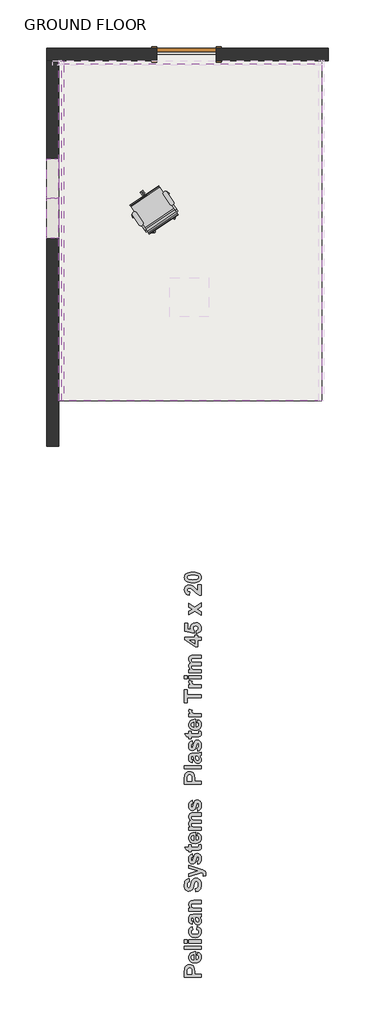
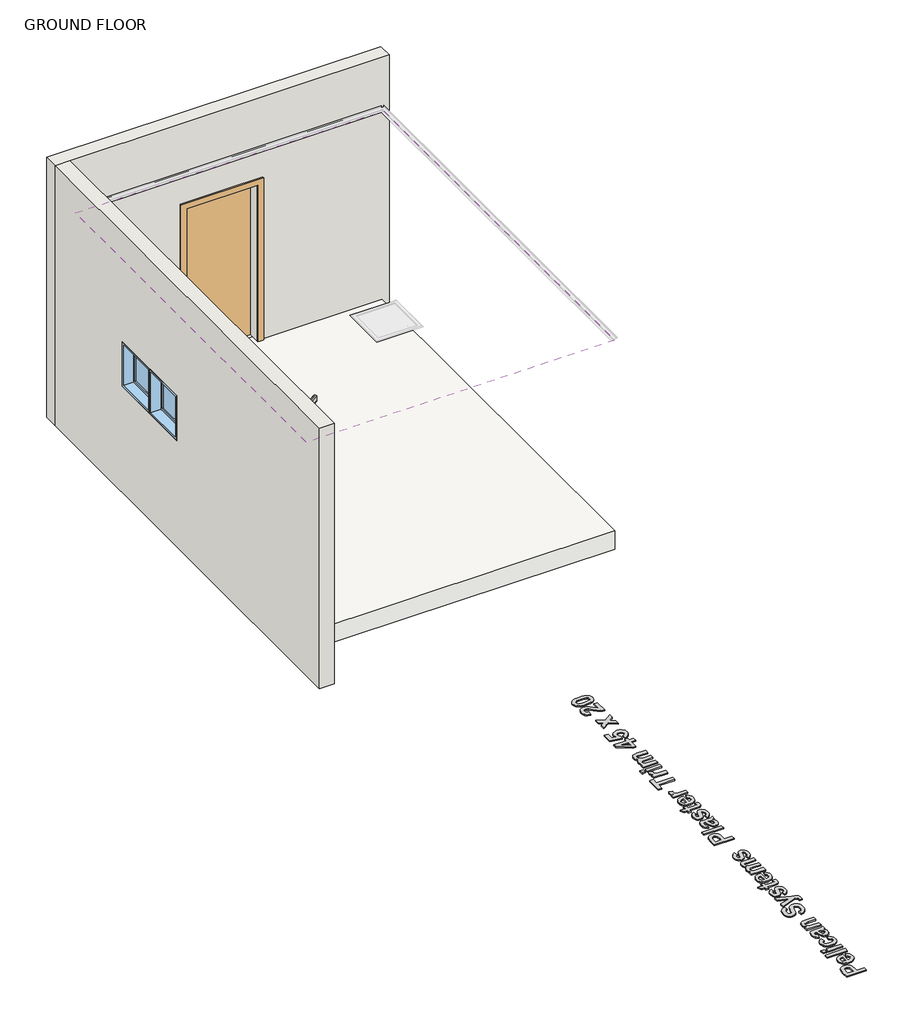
# One storey, part 1 of 2: 2 proxies, 2 walls, 2 windows, 1 covering, 1 door, 1 furniture element, 1 slab.
"""IFC4 building model written with IfcOpenShell, lengths in millimetres."""

from ifc_helpers import new_model, si_unit, frame, origin, origin_with_axes, place, context, project, spatial, polyline, outline, extrude, faceted_brep, transform, mapped, element, save
from components import m_single_flush_0915_x_2134mm_f5238887, chair_task_arms_chair_task_arms_3b363349, m_fixed_0610_x_0610mm_09852ef8

model = new_model("IFC4")

# Units and contexts
model_context = context("Model", 3, world=origin())
ifc_project = project(units=[si_unit("LENGTHUNIT", "METRE", prefix="MILLI")], contexts=[model_context])

# Site, building, storey
site = spatial("IfcSite", under=ifc_project)
building = spatial("IfcBuilding", under=site)
storey = spatial("IfcBuildingStorey", under=building, Name="GROUND FLOOR", Elevation=0.0)

# Proxies
placement = place(None, origin())
element("IfcBuildingElementProxy", 1, Name="600mm Arial", ObjectType="600mm Arial", at=placement, inside=storey, context=model_context, shape_type="SweptSolid", body=[
    extrude(outline(polyline([(130117.584145, 28187.3169008), (129862.519295, 28187.3169008), (129862.519295, 28269.4918116), (129866.3149029, 28330.4113182), (129875.3690092, 28350.4568723), (129891.1445045, 28366.9440441), (129913.0562325, 28377.9750295), (129940.5190371, 28381.6520246), (129962.0037592, 28379.4932727), (129979.7719486, 28373.0170167), (129993.9738481, 28363.2116963), (130004.7597005, 28351.0657511), (130016.8107556, 28324.0220449), (130020.4165831, 28269.9346325), (130020.4165831, 28235.9006818), (130117.584145, 28235.9006818), (130117.584145, 28187.3169008)]), holes=[polyline([(129907.0544275, 28235.9006818), (129975.8814505, 28235.9006818), (129975.8814505, 28266.0757645), (129972.0858426, 28309.630365), (129960.1613079, 28326.8371207), (129951.3760571, 28331.510463), (129941.2781586, 28333.0682437), (129929.2112886, 28330.8778616), (129919.4534133, 28324.3067155), (129912.4631688, 28314.3985974), (129908.6991909, 28302.1972995), (129907.0544275, 28262.5331971), (129907.0544275, 28235.9006818)])]), origin_with_axes(), (0.0, 0.0, 1.0), 15.0),
    extrude(outline(polyline([(130060.9030672, 28527.4033675), (130069.000364, 28575.9871484), (130091.6712136, 28564.1575039), (130108.1900155, 28547.0140082), (130118.2720989, 28524.7306269), (130121.6327934, 28497.4813253), (130119.6519605, 28475.4786608), (130113.7094619, 28456.5362052), (130103.8052976, 28440.6539585), (130089.9394675, 28427.8319206), (130061.2351829, 28414.4524028), (130025.8569544, 28409.9925635), (130004.016394, 28411.4712691), (129984.6746088, 28415.9073858), (129967.8315988, 28423.3009137), (129953.487364, 28433.6518527), (129942.0293727, 28446.2643414), (129933.8450932, 28460.4425184), (129928.9345255, 28476.1863836), (129927.2976696, 28493.495937), (129928.9780168, 28512.7309708), (129934.0190586, 28529.8230675), (129942.4207948, 28544.7722273), (129954.1832254, 28557.5784502), (129969.4170559, 28567.7831001), (129988.2329912, 28574.9275412), (130010.6310315, 28579.0117735), (130036.6111767, 28580.0357969), (130036.6111767, 28458.5763445), (130057.0758292, 28461.691906), (130072.4164111, 28470.0264283), (130082.000321, 28482.3147088), (130085.1949577, 28497.2915449), (130083.7557897, 28507.4922411), (130079.4382857, 28515.9532837), (130071.9261451, 28522.6114125), (130060.9030672, 28527.4033675)]), holes=[polyline([(130008.2706378, 28531.4520159), (129989.0632804, 28528.4946048), (129975.0906989, 28520.6345334), (129966.5743037, 28509.2160797), (129963.7355053, 28495.5835214), (129966.7245465, 28481.1918415), (129975.6916701, 28469.5203472), (129989.8461246, 28461.8658713), (130008.2706378, 28459.3987262), (130008.2706378, 28531.4520159)])]), origin_with_axes(), (0.0, 0.0, 1.0), 15.0),
    extrude(outline(polyline([(130117.584145, 28616.4736326), (129862.519295, 28616.4736326), (129862.519295, 28665.0574135), (130117.584145, 28665.0574135), (130117.584145, 28616.4736326)])), origin_with_axes(), (0.0, 0.0, 1.0), 15.0),
    extrude(outline(polyline([(129907.0544275, 28713.6411945), (129862.519295, 28713.6411945), (129862.519295, 28762.2249754), (129907.0544275, 28762.2249754), (129907.0544275, 28713.6411945)])), origin_with_axes(), (0.0, 0.0, 1.0), 15.0),
    extrude(outline(polyline([(130117.584145, 28713.6411945), (129931.346318, 28713.6411945), (129931.346318, 28762.2249754), (130117.584145, 28762.2249754), (130117.584145, 28713.6411945)])), origin_with_axes(), (0.0, 0.0, 1.0), 15.0),
    extrude(outline(polyline([(129983.9787474, 28964.657396), (129992.0760442, 28916.0736151), (129979.716596, 28912.3491749), (129970.8522701, 28905.7305836), (129965.5146965, 28896.4550668), (129963.7355053, 28884.75985), (129967.0724772, 28869.356008), (129977.083393, 28857.4314732), (129994.9069351, 28849.7928124), (130021.6817857, 28847.2465921), (130051.3666024, 28849.8956101), (130070.8349078, 28857.8426641), (130081.6049452, 28870.2495574), (130085.1949577, 28886.2780932), (130083.1469109, 28898.4161309), (130077.0027707, 28908.1344686), (130065.845265, 28915.3856612), (130048.757122, 28920.1222635), (130056.8544188, 28968.7060445), (130084.9972698, 28958.0704349), (130105.2800494, 28940.7134363), (130117.5446074, 28916.4768984), (130121.6327934, 28885.2026709), (130120.0236138, 28866.4361576), (130115.196075, 28849.6741996), (130107.150177, 28834.9167971), (130095.8859199, 28822.16395), (130081.7789106, 28811.8822017), (130065.2047561, 28804.5380958), (130046.1634566, 28800.1316323), (130024.6550119, 28798.6628111), (130002.9034111, 28800.1217479), (129983.7019843, 28804.4985583), (129967.0507316, 28811.7932422), (129952.9496529, 28822.0057996), (129941.7269102, 28834.7092248), (129933.7106654, 28849.4765117), (129928.9009185, 28866.3076604), (129927.2976696, 28885.2026709), (129930.8006994, 28914.4446667), (129941.3097887, 28937.0127186), (129958.9830879, 28953.5394279), (129983.9787474, 28964.657396)])), origin_with_axes(), (0.0, 0.0, 1.0), 15.0),
    extrude(outline(polyline([(129988.0273958, 29045.6303643), (129979.9300989, 29001.0952318), (129956.5871104, 29010.7503093), (129940.2027364, 29025.5452726), (129930.5239363, 29047.1090699), (129927.2976696, 29077.0706496), (129929.2508261, 29104.1618009), (129935.1102958, 29123.3138057), (129943.9667142, 29136.2505026), (129954.910717, 29144.6957301), (129971.9197848, 29149.3453498), (129998.9713985, 29150.895223), (130056.4115979, 29150.895223), (130092.5963931, 29153.4572583), (130117.584145, 29163.0411683), (130117.584145, 29114.4573873), (130102.1486729, 29109.9026578), (130096.0124401, 29108.1946343), (130115.21189, 29082.1947203), (130120.0275675, 29067.8821155), (130121.6327934, 29052.6522389), (130117.7343878, 29027.8779899), (130106.039171, 29008.9711181), (130088.3975018, 28996.9912307), (130066.6597392, 28992.9979349), (130051.7619782, 28994.7771261), (130038.5722408, 29000.1146997), (130027.6756832, 29008.662725), (130019.6574615, 29020.0732712), (130008.2073777, 29057.0804481), (129996.1246926, 29102.3114421), (129991.0006219, 29102.3114421), (129978.3802257, 29100.8011064), (129969.9982583, 29096.2700995), (129965.3011935, 29087.5639239), (129963.7355053, 29073.5280823), (129965.0797831, 29063.4539063), (129969.1126165, 29055.8785056), (129988.0273958, 29045.6303643)]), holes=[polyline([(130032.5625283, 29102.3114421), (130039.2997323, 29074.9198052), (130046.9858383, 29050.3748742), (130053.8970076, 29043.7800055), (130062.4845705, 29041.5817159), (130071.0958559, 29043.345092), (130078.4577537, 29048.6352205), (130083.5106567, 29056.6455347), (130085.1949577, 29066.5694678), (130083.2338936, 29078.4781875), (130077.3507014, 29089.785936), (130062.8008711, 29100.5401584), (130041.3556866, 29102.3114421), (130032.5625283, 29102.3114421)])]), origin_with_axes(), (0.0, 0.0, 1.0), 15.0),
    extrude(outline(polyline([(130117.584145, 29365.4735889), (130117.584145, 29316.8898079), (130021.8715661, 29316.8898079), (129982.5237643, 29313.8533216), (129968.6697955, 29303.921481), (129963.7355053, 29287.4105867), (129965.4988815, 29275.6521097), (129970.78901, 29265.1746505), (129978.997012, 29256.8875733), (129989.5140089, 29251.7002425), (130032.6257884, 29248.0627849), (130117.584145, 29248.0627849), (130117.584145, 29199.479004), (129931.346318, 29199.479004), (129931.346318, 29248.0627849), (129958.1686137, 29248.0627849), (129944.6625757, 29260.3550192), (129935.0154056, 29274.1417741), (129929.2271036, 29289.4230496), (129927.2976696, 29306.1988457), (129933.1808618, 29334.4128643), (129948.173513, 29353.7704646), (129968.8279459, 29362.9115536), (130001.9446247, 29365.4735889), (130117.584145, 29365.4735889)])), origin_with_axes(), (0.0, 0.0, 1.0), 15.0),
    extrude(outline(polyline([(130032.5625283, 29499.0789865), (130028.5138799, 29547.6627674), (130050.243735, 29554.7479022), (130065.3312764, 29566.6408069), (130074.1560647, 29583.4205567), (130077.0976608, 29605.1662269), (130074.4960879, 29627.7342788), (130066.6913692, 29643.9446875), (130055.4073433, 29653.7183778), (130042.3678487, 29656.9762746), (130027.1537871, 29651.5675333), (130016.2414144, 29632.621124), (130005.4239319, 29590.4898764), (129994.2427037, 29554.5264917), (129980.5627003, 29531.1518731), (129957.2671569, 29513.1701808), (129929.3852539, 29507.1762833), (129910.5969949, 29509.928099), (129893.0739385, 29518.1835462), (129878.1919925, 29531.6263241), (129867.327065, 29549.9401322), (129860.6847512, 29572.8244847), (129858.4706466, 29599.9788962), (129863.990093, 29641.9440859), (129870.8894011, 29658.4846333), (129880.5484324, 29672.0638159), (129892.508551, 29682.725125), (129906.311121, 29690.5120518), (129921.9561422, 29695.4245964), (129939.4436148, 29697.4627587), (129939.4436148, 29648.8789778), (129922.7508476, 29643.5097741), (129911.5142668, 29634.2342573), (129905.132901, 29620.1984157), (129903.0057791, 29600.5482373), (129905.2673288, 29579.8621744), (129912.0519779, 29564.2369219), (129918.852442, 29557.8792787), (129927.6139702, 29555.7600643), (129935.8852324, 29557.6894983), (129942.8596619, 29563.4778003), (129951.0281264, 29580.2812727), (129959.4654464, 29611.0810492), (129968.2427897, 29643.952595), (129977.4313238, 29666.9713754), (129988.5571994, 29683.1027089), (130003.1465672, 29695.3119142), (130021.3813001, 29702.9980202), (130043.4432709, 29705.5600555), (130064.5088947, 29702.5314767), (130084.1827956, 29693.4457404), (130100.7253199, 29678.816835), (130112.3968142, 29659.1587491), (130119.3237986, 29634.2579799), (130121.6327934, 29603.9010243), (130120.2114173, 29581.1985446), (130115.9472891, 29561.2953258), (130108.8404087, 29544.1913677), (130098.8907761, 29529.8866705), (130086.2170042, 29518.2823902), (130070.9377055, 29509.2796827), (130053.0528803, 29502.8785481), (130032.5625283, 29499.0789865)])), origin_with_axes(), (0.0, 0.0, 1.0), 15.0),
    extrude(outline(polyline([(129931.346318, 29725.8032976), (129931.346318, 29774.3870786), (130063.1804319, 29816.8978869), (129931.346318, 29859.4086952), (129931.346318, 29907.9924762), (130109.8031488, 29844.9853852), (130142.9514577, 29833.2822609), (130166.5474867, 29821.7372869), (130179.7688542, 29809.1168907), (130187.6447405, 29791.5622042), (130190.4598164, 29768.0610654), (130187.6763706, 29741.9978913), (130151.6813558, 29737.9492428), (130154.0219807, 29757.2435829), (130151.4520378, 29771.010569), (130143.7422093, 29780.6814616), (130117.584145, 29792.3529559), (129931.346318, 29725.8032976)])), origin_with_axes(), (0.0, 0.0, 1.0), 15.0),
    extrude(outline(polyline([(130064.9517156, 29916.089773), (130056.8544188, 29964.6735539), (130069.0952542, 29969.2994511), (130077.9833027, 29977.1041698), (130083.3920439, 29988.3565656), (130085.1949577, 30003.3254943), (130083.4711191, 30019.567533), (130078.2996033, 30031.2232122), (130072.6694516, 30035.9677221), (130065.3945365, 30037.5492254), (130056.2850776, 30034.1964384), (130049.8958043, 30018.3181454), (130037.4651885, 29971.3949429), (130026.1099949, 29945.5057341), (130008.1283025, 29929.5167359), (129984.295048, 29924.1870698), (129962.1065569, 29928.7576143), (129943.7453038, 29942.4692478), (129931.4095781, 29965.7964213), (129927.2976696, 29999.2135857), (129930.6188265, 30031.0808769), (129940.5822972, 30053.5540386), (129957.0615614, 30068.5625048), (129979.9300989, 30078.0357095), (129988.0273958, 30029.4519285), (129977.6369192, 30025.8777311), (129969.9982583, 30020.0894291), (129965.3011935, 30011.7390917), (129963.7355053, 30000.4787883), (129965.0639681, 29986.6406346), (129969.0493563, 29977.3888404), (129978.9179368, 29972.7708508), (129987.7110951, 29977.3888404), (130001.3120234, 30020.3740997), (130011.1331588, 30051.6008821), (130023.0102485, 30071.7096963), (130038.682946, 30082.5271788), (130059.5113443, 30086.1330063), (130083.210171, 30080.906138), (130103.3189853, 30065.2255329), (130111.3312764, 30053.5164779), (130117.0543414, 30039.2967865), (130121.6327934, 30003.3254943), (130117.8213705, 29970.0111275), (130106.3871017, 29944.4619419), (130088.4054093, 29926.5356022), (130064.9517156, 29916.089773)])), origin_with_axes(), (0.0, 0.0, 1.0), 15.0),
    extrude(outline(polyline([(129931.346318, 30219.7384039), (129967.7841537, 30219.7384039), (129967.7841537, 30183.3005682), (130047.6816997, 30183.3005682), (130075.9273484, 30184.4076205), (130082.5696622, 30189.436801), (130085.1949577, 30198.9890808), (130080.5137079, 30221.7627281), (130115.0537397, 30223.7870523), (130119.98803, 30205.0462384), (130121.6327934, 30183.9964297), (130117.0780639, 30159.4514987), (130105.3116795, 30143.4150553), (130085.7642989, 30136.2982906), (130050.4018854, 30134.7167873), (129967.7841537, 30134.7167873), (129967.7841537, 30110.4248968), (129931.346318, 30110.4248968), (129931.346318, 30134.7167873), (129894.9084823, 30134.7167873), (129866.5679434, 30183.3005682), (129931.346318, 30183.3005682), (129931.346318, 30219.7384039)])), origin_with_axes(), (0.0, 0.0, 1.0), 15.0),
    extrude(outline(polyline([(130060.9030672, 30353.3438015), (130069.000364, 30401.9275825), (130091.6712136, 30390.0979379), (130108.1900155, 30372.9544423), (130118.2720989, 30350.671061), (130121.6327934, 30323.4217594), (130119.6519605, 30301.4190949), (130113.7094619, 30282.4766393), (130103.8052976, 30266.5943925), (130089.9394675, 30253.7723546), (130061.2351829, 30240.3928368), (130025.8569544, 30235.9329976), (130004.016394, 30237.4117032), (129984.6746088, 30241.8478199), (129967.8315988, 30249.2413477), (129953.487364, 30259.5922867), (129942.0293727, 30272.2047754), (129933.8450932, 30286.3829524), (129928.9345255, 30302.1268176), (129927.2976696, 30319.4363711), (129928.9780168, 30338.6714048), (129934.0190586, 30355.7635016), (129942.4207948, 30370.7126614), (129954.1832254, 30383.5188842), (129969.4170559, 30393.7235342), (129988.2329912, 30400.8679753), (130010.6310315, 30404.9522075), (130036.6111767, 30405.9762309), (130036.6111767, 30284.5167785), (130057.0758292, 30287.63234), (130072.4164111, 30295.9668623), (130082.000321, 30308.2551429), (130085.1949577, 30323.231979), (130083.7557897, 30333.4326752), (130079.4382857, 30341.8937178), (130071.9261451, 30348.5518466), (130060.9030672, 30353.3438015)]), holes=[polyline([(130008.2706378, 30357.39245), (129989.0632804, 30354.4350388), (129975.0906989, 30346.5749675), (129966.5743037, 30335.1565138), (129963.7355053, 30321.5239554), (129966.7245465, 30307.1322755), (129975.6916701, 30295.4607813), (129989.8461246, 30287.8063054), (130008.2706378, 30285.3391602), (130008.2706378, 30357.39245)])]), origin_with_axes(), (0.0, 0.0, 1.0), 15.0),
    extrude(outline(polyline([(129931.346318, 30438.3654182), (129931.346318, 30486.9491992), (129956.2708098, 30486.9491992), (129943.5950609, 30498.9093178), (129934.5409546, 30511.9527661), (129929.1084908, 30526.0795442), (129927.2976696, 30541.2896521), (129929.0768608, 30556.9386271), (129934.4144344, 30570.3576825), (129943.3578355, 30581.5626332), (129955.9545091, 30590.5692945), (129943.3578355, 30603.0078178), (129934.4144344, 30616.4110582), (129929.0768608, 30630.7632005), (129927.2976696, 30646.0484297), (129929.3773464, 30664.5045731), (129935.6163769, 30679.8926001), (129945.8882407, 30692.0069152), (129960.0664177, 30700.6419232), (129975.644225, 30704.3426409), (129998.5918377, 30705.5762134), (130117.584145, 30705.5762134), (130117.584145, 30656.9924325), (130010.3582222, 30656.9924325), (129987.4106095, 30655.7588599), (129974.3632074, 30652.0581422), (129966.3924308, 30643.6761748), (129963.7355053, 30631.6883799), (129965.3249161, 30621.9858572), (129970.0931485, 30612.8684908), (129977.9294973, 30605.277275), (129988.7232572, 30600.1532044), (130027.5017178, 30596.2627063), (130117.584145, 30596.2627063), (130117.584145, 30547.6789253), (130014.7864314, 30547.6789253), (129979.455648, 30545.1485201), (129967.6260034, 30537.3358939), (129963.7355053, 30522.9442139), (129965.277471, 30512.5537374), (129969.9033681, 30503.2703131), (129977.4471388, 30495.7739875), (129987.7427252, 30490.744807), (130026.4262956, 30486.9491992), (130117.584145, 30486.9491992), (130117.584145, 30438.3654182), (129931.346318, 30438.3654182)])), origin_with_axes(), (0.0, 0.0, 1.0), 15.0),
    extrude(outline(polyline([(130064.9517156, 30733.9167523), (130056.8544188, 30782.5005333), (130069.0952542, 30787.1264304), (130077.9833027, 30794.9311491), (130083.3920439, 30806.183545), (130085.1949577, 30821.1524736), (130083.4711191, 30837.3945123), (130078.2996033, 30849.0501916), (130072.6694516, 30853.7947014), (130065.3945365, 30855.3762047), (130056.2850776, 30852.0234177), (130049.8958043, 30836.1451247), (130037.4651885, 30789.2219222), (130026.1099949, 30763.3327134), (130008.1283025, 30747.3437152), (129984.295048, 30742.0140491), (129962.1065569, 30746.5845936), (129943.7453038, 30760.2962271), (129931.4095781, 30783.6234006), (129927.2976696, 30817.040565), (129930.6188265, 30848.9078563), (129940.5822972, 30871.381018), (129957.0615614, 30886.3894841), (129979.9300989, 30895.8626888), (129988.0273958, 30847.2789079), (129977.6369192, 30843.7047104), (129969.9982583, 30837.9164084), (129965.3011935, 30829.5660711), (129963.7355053, 30818.3057677), (129965.0639681, 30804.4676139), (129969.0493563, 30795.2158197), (129978.9179368, 30790.5978301), (129987.7110951, 30795.2158197), (130001.3120234, 30838.201079), (130011.1331588, 30869.4278614), (130023.0102485, 30889.5366757), (130038.682946, 30900.3541582), (130059.5113443, 30903.9599856), (130083.210171, 30898.7331173), (130103.3189853, 30883.0525122), (130111.3312764, 30871.3434572), (130117.0543414, 30857.1237658), (130121.6327934, 30821.1524736), (130117.8213705, 30787.8381069), (130106.3871017, 30762.2889213), (130088.4054093, 30744.3625815), (130064.9517156, 30733.9167523)])), origin_with_axes(), (0.0, 0.0, 1.0), 15.0),
    extrude(outline(polyline([(130117.584145, 31142.830242), (129862.519295, 31142.830242), (129862.519295, 31225.0051527), (129866.3149029, 31285.9246593), (129875.3690092, 31305.9702135), (129891.1445045, 31322.4573852), (129913.0562325, 31333.4883706), (129940.5190371, 31337.1653658), (129962.0037592, 31335.0066138), (129979.7719486, 31328.5303578), (129993.9738481, 31318.7250375), (130004.7597005, 31306.5790922), (130016.8107556, 31279.535386), (130020.4165831, 31225.4479737), (130020.4165831, 31191.4140229), (130117.584145, 31191.4140229), (130117.584145, 31142.830242)]), holes=[polyline([(129907.0544275, 31191.4140229), (129975.8814505, 31191.4140229), (129975.8814505, 31221.5891056), (129972.0858426, 31265.1437061), (129960.1613079, 31282.3504619), (129951.3760571, 31287.0238041), (129941.2781586, 31288.5815848), (129929.2112886, 31286.3912028), (129919.4534133, 31279.8200566), (129912.4631688, 31269.9119385), (129908.6991909, 31257.7106407), (129907.0544275, 31218.0465383), (129907.0544275, 31191.4140229)])]), origin_with_axes(), (0.0, 0.0, 1.0), 15.0),
    extrude(outline(polyline([(130117.584145, 31377.6518499), (129862.519295, 31377.6518499), (129862.519295, 31426.2356309), (130117.584145, 31426.2356309), (130117.584145, 31377.6518499)])), origin_with_axes(), (0.0, 0.0, 1.0), 15.0),
    extrude(outline(polyline([(129988.0273958, 31515.3058959), (129979.9300989, 31470.7707634), (129956.5871104, 31480.425841), (129940.2027364, 31495.2208042), (129930.5239363, 31516.7846015), (129927.2976696, 31546.7461813), (129929.2508261, 31573.8373326), (129935.1102958, 31592.9893374), (129943.9667142, 31605.9260342), (129954.910717, 31614.3712618), (129971.9197848, 31619.0208814), (129998.9713985, 31620.5707547), (130056.4115979, 31620.5707547), (130092.5963931, 31623.13279), (130117.584145, 31632.7166999), (130117.584145, 31584.132919), (130102.1486729, 31579.5781895), (130096.0124401, 31577.8701659), (130115.21189, 31551.8702519), (130120.0275675, 31537.5576472), (130121.6327934, 31522.3277705), (130117.7343878, 31497.5535216), (130106.039171, 31478.6466498), (130088.3975018, 31466.6667624), (130066.6597392, 31462.6734666), (130051.7619782, 31464.4526578), (130038.5722408, 31469.7902314), (130027.6756832, 31478.3382566), (130019.6574615, 31489.7488028), (130008.2073777, 31526.7559797), (129996.1246926, 31571.9869737), (129991.0006219, 31571.9869737), (129978.3802257, 31570.4766381), (129969.9982583, 31565.9456312), (129965.3011935, 31557.2394556), (129963.7355053, 31543.2036139), (129965.0797831, 31533.129438), (129969.1126165, 31525.5540372), (129988.0273958, 31515.3058959)]), holes=[polyline([(130032.5625283, 31571.9869737), (130039.2997323, 31544.5953368), (130046.9858383, 31520.0504058), (130053.8970076, 31513.4555371), (130062.4845705, 31511.2572475), (130071.0958559, 31513.0206237), (130078.4577537, 31518.3107522), (130083.5106567, 31526.3210663), (130085.1949577, 31536.2449994), (130083.2338936, 31548.1537192), (130077.3507014, 31559.4614677), (130062.8008711, 31570.21569), (130041.3556866, 31571.9869737), (130032.5625283, 31571.9869737)])]), origin_with_axes(), (0.0, 0.0, 1.0), 15.0),
    extrude(outline(polyline([(130064.9517156, 31648.9112936), (130056.8544188, 31697.4950745), (130069.0952542, 31702.1209716), (130077.9833027, 31709.9256903), (130083.3920439, 31721.1780862), (130085.1949577, 31736.1470148), (130083.4711191, 31752.3890536), (130078.2996033, 31764.0447328), (130072.6694516, 31768.7892426), (130065.3945365, 31770.3707459), (130056.2850776, 31767.017959), (130049.8958043, 31751.139666), (130037.4651885, 31704.2164635), (130026.1099949, 31678.3272547), (130008.1283025, 31662.3382565), (129984.295048, 31657.0085904), (129962.1065569, 31661.5791349), (129943.7453038, 31675.2907684), (129931.4095781, 31698.6179418), (129927.2976696, 31732.0351063), (129930.6188265, 31763.9023975), (129940.5822972, 31786.3755592), (129957.0615614, 31801.3840254), (129979.9300989, 31810.8572301), (129988.0273958, 31762.2734491), (129977.6369192, 31758.6992517), (129969.9982583, 31752.9109496), (129965.3011935, 31744.5606123), (129963.7355053, 31733.3003089), (129965.0639681, 31719.4621551), (129969.0493563, 31710.2103609), (129978.9179368, 31705.5923713), (129987.7110951, 31710.2103609), (130001.3120234, 31753.1956202), (130011.1331588, 31784.4224026), (130023.0102485, 31804.5312169), (130038.682946, 31815.3486994), (130059.5113443, 31818.9545269), (130083.210171, 31813.7276585), (130103.3189853, 31798.0470534), (130111.3312764, 31786.3379985), (130117.0543414, 31772.1183071), (130121.6327934, 31736.1470148), (130117.8213705, 31702.8326481), (130106.3871017, 31677.2834625), (130088.4054093, 31659.3571228), (130064.9517156, 31648.9112936)])), origin_with_axes(), (0.0, 0.0, 1.0), 15.0),
    extrude(outline(polyline([(129931.346318, 31952.5599245), (129967.7841537, 31952.5599245), (129967.7841537, 31916.1220888), (130047.6816997, 31916.1220888), (130075.9273484, 31917.2291411), (130082.5696622, 31922.2583215), (130085.1949577, 31931.8106014), (130080.5137079, 31954.5842487), (130115.0537397, 31956.6085729), (130119.98803, 31937.867759), (130121.6327934, 31916.8179502), (130117.0780639, 31892.2730192), (130105.3116795, 31876.2365759), (130085.7642989, 31869.1198111), (130050.4018854, 31867.5383078), (129967.7841537, 31867.5383078), (129967.7841537, 31843.2464174), (129931.346318, 31843.2464174), (129931.346318, 31867.5383078), (129894.9084823, 31867.5383078), (129866.5679434, 31916.1220888), (129931.346318, 31916.1220888), (129931.346318, 31952.5599245)])), origin_with_axes(), (0.0, 0.0, 1.0), 15.0),
    extrude(outline(polyline([(130060.9030672, 32086.1653221), (130069.000364, 32134.7491031), (130091.6712136, 32122.9194585), (130108.1900155, 32105.7759629), (130118.2720989, 32083.4925816), (130121.6327934, 32056.2432799), (130119.6519605, 32034.2406155), (130113.7094619, 32015.2981599), (130103.8052976, 31999.4159131), (130089.9394675, 31986.5938752), (130061.2351829, 31973.2143574), (130025.8569544, 31968.7545181), (130004.016394, 31970.2332237), (129984.6746088, 31974.6693404), (129967.8315988, 31982.0628683), (129953.487364, 31992.4138073), (129942.0293727, 32005.026296), (129933.8450932, 32019.204473), (129928.9345255, 32034.9483382), (129927.2976696, 32052.2578916), (129928.9780168, 32071.4929254), (129934.0190586, 32088.5850221), (129942.4207948, 32103.5341819), (129954.1832254, 32116.3404048), (129969.4170559, 32126.5450548), (129988.2329912, 32133.6894959), (130010.6310315, 32137.7737281), (130036.6111767, 32138.7977515), (130036.6111767, 32017.3382991), (130057.0758292, 32020.4538606), (130072.4164111, 32028.7883829), (130082.000321, 32041.0766634), (130085.1949577, 32056.0534995), (130083.7557897, 32066.2541957), (130079.4382857, 32074.7152383), (130071.9261451, 32081.3733671), (130060.9030672, 32086.1653221)]), holes=[polyline([(130008.2706378, 32090.2139705), (129989.0632804, 32087.2565594), (129975.0906989, 32079.396488), (129966.5743037, 32067.9780343), (129963.7355053, 32054.345476), (129966.7245465, 32039.9537961), (129975.6916701, 32028.2823018), (129989.8461246, 32020.6278259), (130008.2706378, 32018.1606808), (130008.2706378, 32090.2139705)])]), origin_with_axes(), (0.0, 0.0, 1.0), 15.0),
    extrude(outline(polyline([(130117.584145, 32223.8193681), (130117.584145, 32175.2355872), (129931.346318, 32175.2355872), (129931.346318, 32223.8193681), (129957.2829719, 32223.8193681), (129933.0859716, 32243.2402285), (129927.2976696, 32262.8508692), (129929.8597049, 32278.0174857), (129937.5458109, 32292.6463911), (129983.788967, 32278.4761217), (129977.8583296, 32266.7729974), (129975.8814505, 32255.9555149), (129981.416712, 32238.8436493), (129989.1739857, 32232.5967114), (130001.3752835, 32227.8363865), (130061.8519692, 32223.8193681), (130117.584145, 32223.8193681)])), origin_with_axes(), (0.0, 0.0, 1.0), 15.0),
    extrude(outline(polyline([(130117.584145, 32466.7382729), (129907.0544275, 32466.7382729), (129907.0544275, 32393.8626015), (129862.519295, 32393.8626015), (129862.519295, 32588.1977253), (129907.0544275, 32588.1977253), (129907.0544275, 32515.3220538), (130117.584145, 32515.3220538), (130117.584145, 32466.7382729)])), origin_with_axes(), (0.0, 0.0, 1.0), 15.0),
    extrude(outline(polyline([(130117.584145, 32669.1706935), (130117.584145, 32620.5869126), (129931.346318, 32620.5869126), (129931.346318, 32669.1706935), (129957.2829719, 32669.1706935), (129933.0859716, 32688.5915539), (129927.2976696, 32708.2021946), (129929.8597049, 32723.3688111), (129937.5458109, 32737.9977165), (129983.788967, 32723.8274471), (129977.8583296, 32712.1243228), (129975.8814505, 32701.3068403), (129981.416712, 32684.1949747), (129989.1739857, 32677.9480367), (130001.3752835, 32673.1877119), (130061.8519692, 32669.1706935), (130117.584145, 32669.1706935)])), origin_with_axes(), (0.0, 0.0, 1.0), 15.0),
    extrude(outline(polyline([(129907.0544275, 32758.2409586), (129862.519295, 32758.2409586), (129862.519295, 32806.8247395), (129907.0544275, 32806.8247395), (129907.0544275, 32758.2409586)])), origin_with_axes(), (0.0, 0.0, 1.0), 15.0),
    extrude(outline(polyline([(130117.584145, 32758.2409586), (129931.346318, 32758.2409586), (129931.346318, 32806.8247395), (130117.584145, 32806.8247395), (130117.584145, 32758.2409586)])), origin_with_axes(), (0.0, 0.0, 1.0), 15.0),
    extrude(outline(polyline([(129931.346318, 32851.3598721), (129931.346318, 32899.943653), (129956.2708098, 32899.943653), (129943.5950609, 32911.9037716), (129934.5409546, 32924.94722), (129929.1084908, 32939.0739981), (129927.2976696, 32954.2841059), (129929.0768608, 32969.933081), (129934.4144344, 32983.3521363), (129943.3578355, 32994.5570871), (129955.9545091, 33003.5637483), (129943.3578355, 33016.0022717), (129934.4144344, 33029.405512), (129929.0768608, 33043.7576543), (129927.2976696, 33059.0428836), (129929.3773464, 33077.499027), (129935.6163769, 33092.8870539), (129945.8882407, 33105.0013691), (129960.0664177, 33113.636377), (129975.644225, 33117.3370947), (129998.5918377, 33118.5706673), (130117.584145, 33118.5706673), (130117.584145, 33069.9868863), (130010.3582222, 33069.9868863), (129987.4106095, 33068.7533138), (129974.3632074, 33065.0525961), (129966.3924308, 33056.6706287), (129963.7355053, 33044.6828338), (129965.3249161, 33034.9803111), (129970.0931485, 33025.8629447), (129977.9294973, 33018.2717289), (129988.7232572, 33013.1476582), (130027.5017178, 33009.2571602), (130117.584145, 33009.2571602), (130117.584145, 32960.6733792), (130014.7864314, 32960.6733792), (129979.455648, 32958.142974), (129967.6260034, 32950.3303477), (129963.7355053, 32935.9386678), (129965.277471, 32925.5481912), (129969.9033681, 32916.2647669), (129977.4471388, 32908.7684414), (129987.7427252, 32903.7392609), (130026.4262956, 32899.943653), (130117.584145, 32899.943653), (130117.584145, 32851.3598721), (129931.346318, 32851.3598721)])), origin_with_axes(), (0.0, 0.0, 1.0), 15.0),
    extrude(outline(polyline([(130117.584145, 33345.2949784), (130064.9517156, 33345.2949784), (130064.9517156, 33248.1274165), (130024.6550119, 33248.1274165), (129866.5679434, 33351.7475118), (129866.5679434, 33393.8787594), (130024.4652315, 33393.8787594), (130024.4652315, 33426.2679467), (130064.9517156, 33426.2679467), (130064.9517156, 33393.8787594), (130117.584145, 33393.8787594), (130117.584145, 33345.2949784)]), holes=[polyline([(130024.4652315, 33345.2949784), (129941.5944593, 33345.2949784), (130024.4652315, 33291.0177856), (130024.4652315, 33345.2949784)])]), origin_with_axes(), (0.0, 0.0, 1.0), 15.0),
    extrude(outline(polyline([(130045.7838958, 33450.5598371), (130040.6598251, 33495.0949697), (130055.7315515, 33499.2385083), (130067.2923405, 33507.4939554), (130074.6463308, 33518.5961085), (130077.0976608, 33531.2797649), (130074.4960879, 33545.4737568), (130066.6913692, 33557.3113089), (130053.6518746, 33565.3058081), (130035.3459741, 33567.9706411), (130018.1866634, 33565.4955884), (130005.930013, 33558.0704305), (129998.5760227, 33546.6756993), (129996.1246926, 33532.291927), (130001.1855031, 33513.4720378), (130016.3679347, 33496.7397331), (130010.1051816, 33454.6084855), (129866.5679434, 33482.9490244), (129866.5679434, 33604.4084768), (129915.1517243, 33604.4084768), (129915.1517243, 33522.2335661), (129961.5214007, 33512.4282457), (129954.0725202, 33527.9111629), (129951.5895601, 33543.7420107), (129957.3383245, 33571.8611392), (129974.5846178, 33595.362278), (130001.0036302, 33611.256386), (130034.2705519, 33616.554422), (130063.196247, 33612.1420279), (130088.8640453, 33598.9048454), (130103.2003726, 33585.6874317), (130113.4406064, 33570.1373006), (130119.5847466, 33552.2544522), (130121.6327934, 33532.0388864), (130116.4929077, 33501.0335145), (130101.0732507, 33476.3383407), (130076.9711406, 33459.1236774), (130045.7838958, 33450.5598371)])), origin_with_axes(), (0.0, 0.0, 1.0), 15.0),
    extrude(outline(polyline([(130117.584145, 33727.8922534), (130021.6817857, 33793.6827901), (129931.346318, 33735.9895502), (129931.346318, 33793.7460502), (129982.5237643, 33821.8335486), (129931.346318, 33852.3249319), (129931.346318, 33910.0814319), (130019.5309412, 33850.6801685), (130117.584145, 33918.1787288), (130117.584145, 33860.4222288), (130059.8909051, 33821.8335486), (130117.584145, 33785.6487534), (130117.584145, 33727.8922534)])), origin_with_axes(), (0.0, 0.0, 1.0), 15.0),
    extrude(outline(polyline([(130069.000364, 34195.511145), (130117.584145, 34195.511145), (130117.584145, 34033.5652085), (130093.0787516, 34038.7367243), (130069.9176359, 34049.0639407), (130043.735849, 34068.2475756), (130010.1684418, 34099.9883465), (129969.4289171, 34137.5648646), (129954.7209366, 34144.5867392), (129940.2027364, 34146.9273641), (129926.0561895, 34144.9583925), (129915.6261753, 34139.0514777), (129909.1973645, 34129.6810707), (129907.0544275, 34117.3216226), (129909.1657344, 34105.0491571), (129915.4996551, 34095.5601373), (129926.7204209, 34089.1708641), (129943.4922632, 34086.1976379), (129939.064054, 34037.6138569), (129903.9151435, 34046.2172348), (129890.6759841, 34053.8400807), (129880.327022, 34063.6770311), (129866.9712267, 34088.3010373), (129862.519295, 34118.3970448), (129867.5089379, 34150.5331916), (129882.4778665, 34174.9516023), (129904.8640455, 34190.3712594), (129932.1054396, 34195.511145), (129964.2415863, 34189.8809933), (129996.1879527, 34172.0416363), (130028.071059, 34141.8349235), (130055.7157364, 34114.0953559), (130069.000364, 34104.9858969), (130069.000364, 34195.511145)])), origin_with_axes(), (0.0, 0.0, 1.0), 15.0),
    extrude(outline(polyline([(129862.519295, 34308.8733006), (129864.1640584, 34326.0049349), (129869.0983487, 34341.1517827), (129877.3221657, 34354.3138438), (129888.8355097, 34365.4911182), (129906.9634911, 34376.1464966), (129930.2234507, 34383.7574812), (129958.6153884, 34388.3240719), (129992.1393043, 34389.8462688), (130025.6315902, 34388.3161644), (130054.055158, 34383.7258511), (130077.4100077, 34376.075329), (130095.6961395, 34365.364598), (130107.0434256, 34354.2426761), (130115.1486299, 34341.1201526), (130120.0117525, 34325.9970274), (130121.6327934, 34308.8733006), (130119.8536022, 34291.565724), (130114.5160286, 34276.0175698), (130105.6200726, 34262.228838), (130093.1657342, 34250.1995287), (130076.1448051, 34240.4436303), (130053.5490769, 34233.4751314), (130025.3785496, 34229.2940321), (129991.6332233, 34227.9003323), (129958.3069953, 34229.4304368), (129930.0020402, 34234.02075), (129906.7183581, 34241.6712722), (129888.4559489, 34252.3820032), (129877.1086628, 34263.5039251), (129869.0034585, 34276.6264486), (129864.1403359, 34291.7495738), (129862.519295, 34308.8733006)]), holes=[polyline([(129907.0544275, 34308.8733006), (129912.3999086, 34292.6787069), (129919.8725117, 34286.3526938), (129931.5993585, 34281.6714441), (129955.7489137, 34277.780946), (129992.1393043, 34276.4841133), (130028.0473364, 34277.6386107), (130050.6232958, 34281.1021029), (130063.8762934, 34286.3289712), (130071.8154399, 34292.7735971), (130077.0976608, 34308.8733006), (130071.7521797, 34325.0678942), (130064.2795767, 34331.3939074), (130052.5527298, 34336.0751571), (130028.5296949, 34339.9656552), (129992.1393043, 34341.2624879), (129956.2708098, 34340.1079905), (129933.6869429, 34336.6444983), (129920.3944077, 34331.4176299), (129912.3999086, 34324.973004), (129907.0544275, 34308.8733006)])]), origin_with_axes(), (0.0, 0.0, 1.0), 15.0),
])
element("IfcBuildingElementProxy", 2, Name="TR04 : Trims Pelican Systems Plaster Trim 45 x 20", ObjectType="TR04 : Trims Pelican Systems Plaster Trim 45 x 20", at=placement, inside=storey, context=model_context, shape_type="Brep", body=[
    faceted_brep([(127942.7345529, 42216.9193804, 2641.0), (127943.7345529, 42216.9193804, 2641.0), (127943.7345529, 42216.9193804, 2621.0), (127988.7345529, 42216.9193804, 2621.0), (127988.7345529, 42216.9193804, 2620.0), (127988.7345529, 42216.9193804, 2612.0), (128012.7345529, 42216.9193804, 2612.0), (128012.7345529, 42216.9193804, 2611.0), (127988.7345529, 42216.9193804, 2611.0), (127988.7345529, 42216.9193804, 2600.0), (127987.7345529, 42216.9193804, 2600.0), (127987.7345529, 42216.9193804, 2620.0), (127942.7345529, 42216.9193804, 2620.0), (127942.7345529, 42216.9193804, 2621.0), (127942.7345529, 37012.9193804, 2641.0), (127942.7345529, 37012.9193804, 2620.0), (127987.7345529, 37012.9193804, 2620.0), (127987.7345529, 37012.9193804, 2600.0), (127988.7345529, 37012.9193804, 2600.0), (127988.7345529, 37012.9193804, 2611.0), (128012.7345529, 37012.9193804, 2611.0), (128012.7345529, 37012.9193804, 2612.0), (127988.7345529, 37012.9193804, 2612.0), (127988.7345529, 37012.9193804, 2621.0), (127943.7345529, 37012.9193804, 2621.0), (127943.7345529, 37012.9193804, 2641.0), (127942.7345529, 42172.9193804, 2620.0), (127942.7345529, 42171.9193804, 2620.0), (127987.7345529, 42172.9193804, 2620.0), (127987.7345529, 42171.9193804, 2620.0), (127987.7345529, 42172.9193804, 2600.0), (127987.7345529, 42171.9193804, 2600.0), (127988.7345529, 42172.9193804, 2600.0), (127988.7345529, 42171.9193804, 2600.0), (127988.7345529, 42171.9193804, 2621.0), (127988.7345529, 42171.9193804, 2612.0), (127988.7345529, 42172.9193804, 2612.0), (128012.7345529, 42172.9193804, 2611.0), (128012.7345529, 42171.9193804, 2611.0), (128012.7345529, 42147.9193804, 2611.0), (127988.7345529, 42171.9193804, 2611.0), (127988.7345529, 42172.9193804, 2611.0), (128012.7345529, 42172.9193804, 2612.0), (128012.7345529, 42171.9193804, 2612.0), (128012.7345529, 42147.9193804, 2612.0)], [[[0, 1, 2, 3, 4, 5, 6, 7, 8, 9, 10, 11, 12, 13]], [[14, 15, 16, 17, 18, 19, 20, 21, 22, 23, 24, 25]], [[12, 26, 27, 15, 14, 0, 13]], [[11, 28, 29, 16, 15, 27, 26, 12]], [[10, 30, 31, 17, 16, 29, 28, 11]], [[9, 32, 33, 18, 17, 31, 30, 10]], [[3, 34, 23, 22, 35, 36, 5, 4]], [[7, 37, 38, 39, 20, 19, 40, 41, 8]], [[6, 42, 43, 44, 21, 20, 39, 38, 37, 7]], [[5, 36, 35, 22, 21, 44, 43, 42, 6]], [[2, 24, 23, 34, 3]], [[0, 14, 25, 1]], [[8, 41, 40, 19, 18, 33, 32, 9]], [[1, 25, 24, 2]]]),
])

# Covering
element("IfcCovering", 3, ObjectType="_C2.3 - 12mm FLUSHPLASTER CEILING (UNDER CONCRETE SOFFIT)", at=placement, inside=storey, context=model_context, shape_type="SweptSolid", body=[
    extrude(outline(polyline([(127988.7345529, 42171.9193804), (131966.7345529, 42171.9193804), (131966.7345529, 37012.9193804), (127988.7345529, 37012.9193804), (127988.7345529, 42171.9193804)]), holes=[polyline([(129682.6212716, 38849.9489557), (129682.6212716, 38339.2489557), (130193.3212716, 38339.2489557), (130193.3212716, 38849.9489557), (129682.6212716, 38849.9489557)])]), frame((0.0, 0.0, 2600.0), z_axis=(0.0, 0.0, 1.0), x_axis=(1.0, 0.0, 0.0)), (0.0, 0.0, 1.0), 11.0),
])

# Door
m_single_flush_0915_x_2134mm_shape = m_single_flush_0915_x_2134mm_f5238887(model_context)
element("IfcDoor", 4, ObjectType="M_Single-Flush : 0915 x 2134mm", at=placement, inside=storey, context=model_context, shape_type="MappedRepresentation", body=[
    mapped(m_single_flush_0915_x_2134mm_shape, transform((129894.7345529, 42312.9193804, 0.0), x_axis=(1.0, 0.0, 0.0), y_axis=(0.0, 1.0, 0.0), z_axis=(0.0, 0.0, 1.0))),
])

# Furniture
chair_task_arms_chair_task_arms_shape = chair_task_arms_chair_task_arms_3b363349(model_context)
element("IfcFurniture", 5, ObjectType="Chair-Task Arms : Chair-Task Arms", at=placement, inside=storey, context=model_context, shape_type="MappedRepresentation", body=[
    mapped(chair_task_arms_chair_task_arms_shape, transform((129292.677586, 39836.7323612, 0.0), x_axis=(0.8290375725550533, 0.5591929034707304, 0.0), y_axis=(-0.5591929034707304, 0.8290375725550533, 0.0), z_axis=(0.0, 0.0, 1.0))),
])

# Slab
element("IfcSlab", 6, ObjectType="Generic Floor - 250mm", at=placement, inside=storey, context=model_context, shape_type="Brep", body=[
    faceted_brep([(127866.7345529, 42312.9193804, -250.0), (131966.7345529, 42312.9193804, -250.0), (131966.7345529, 42217.9193804, -250.0), (131966.7345529, 37012.9193804, -250.0), (127866.7345529, 37012.9193804, -250.0), (127866.7345529, 42217.9193804, -250.0), (127866.7345529, 42312.9193804, 0.0), (127866.7345529, 42217.9193804, 0.0), (127866.7345529, 37012.9193804, 0.0), (131966.7345529, 37012.9193804, 0.0), (131966.7345529, 42217.9193804, 0.0), (131966.7345529, 42312.9193804, 0.0), (130352.2345529, 42312.9193804, 0.0), (129437.2345529, 42312.9193804, 0.0)], [[[0, 1, 2, 3, 4, 5]], [[6, 7, 8, 9, 10, 11, 12, 13]], [[1, 0, 6, 13, 12, 11]], [[3, 2, 1, 11, 10, 9]], [[4, 3, 9, 8]], [[0, 5, 4, 8, 7, 6]]]),
])

# Walls
element("IfcWall", 7, ObjectType="190mm MAXI BLOCK- plastered", at=placement, inside=storey, context=model_context, shape_type="Brep", body=[
    faceted_brep([(132061.7345529, 42217.9193804, -250.0), (132061.7345529, 42217.9193804, 3300.0), (127942.7345529, 42217.9193804, 3300.0), (127752.7345529, 42217.9193804, 3300.0), (127752.7345529, 42217.9193804, -250.0), (127866.7345529, 42217.9193804, -250.0), (127866.7345529, 42217.9193804, 0.0), (129437.2345529, 42217.9193804, 0.0), (129437.2345529, 42217.9193804, 2134.0), (130352.2345529, 42217.9193804, 2134.0), (130352.2345529, 42217.9193804, 0.0), (131966.7345529, 42217.9193804, 0.0), (131966.7345529, 42217.9193804, -250.0), (132061.7345529, 42407.9193804, -250.0), (127752.7345529, 42407.9193804, -250.0), (127752.7345529, 42407.9193804, 3300.0), (132061.7345529, 42407.9193804, 3300.0), (129437.2345529, 42407.9193804, 0.0), (130352.2345529, 42407.9193804, 0.0), (130352.2345529, 42407.9193804, 2134.0), (129437.2345529, 42407.9193804, 2134.0), (131966.7345529, 42312.9193804, -250.0), (127866.7345529, 42312.9193804, -250.0), (129437.2345529, 42312.9193804, 0.0), (130352.2345529, 42312.9193804, 0.0), (127866.7345529, 42312.9193804, 0.0), (131966.7345529, 42312.9193804, 0.0)], [[[0, 1, 2, 3, 4, 5, 6, 7, 8, 9, 10, 11, 12]], [[13, 14, 15, 16], [17, 18, 19, 20]], [[14, 13, 0, 12, 21, 22, 5, 4]], [[1, 0, 13, 16]], [[3, 2, 1, 16, 15]], [[18, 17, 23, 24]], [[19, 18, 24, 10, 9]], [[20, 19, 9, 8]], [[17, 20, 8, 7, 23]], [[25, 23, 7, 6]], [[24, 26, 11, 10]], [[25, 22, 21, 26, 24, 23]], [[22, 25, 6, 5]], [[26, 21, 12, 11]], [[4, 3, 15, 14]]]),
])
element("IfcWall", 8, ObjectType="190mm MAXI BLOCK- plastered", at=placement, inside=storey, context=model_context, shape_type="SweptSolid", body=[
    extrude(outline(polyline([(42217.9193804, -250.0), (36312.9193804, -250.0), (36312.9193804, 3300.0), (42217.9193804, 3300.0), (42217.9193804, -250.0)]), holes=[polyline([(39497.9193804, 1200.0), (40717.9193804, 1200.0), (40717.9193804, 1810.0), (39497.9193804, 1810.0), (39497.9193804, 1200.0)])]), frame((127752.7345529, 0.0, 0.0), z_axis=(1.0, 0.0, 0.0), x_axis=(0.0, 1.0, 0.0)), (0.0, 0.0, 1.0), 190.0),
])

# Windows
m_fixed_0610_x_0610mm_shape = m_fixed_0610_x_0610mm_09852ef8(model_context)
element("IfcWindow", 9, ObjectType="M_Fixed : 0610 x 0610mm", at=placement, inside=storey, context=model_context, shape_type="MappedRepresentation", body=[
    mapped(m_fixed_0610_x_0610mm_shape, transform((127834.7345529, 40412.9193804, 285.0), x_axis=(0.0, -1.0, 0.0), y_axis=(1.0, 0.0, 0.0), z_axis=(0.0, 0.0, 1.0))),
])
element("IfcWindow", 10, ObjectType="M_Fixed : 0610 x 0610mm", at=placement, inside=storey, context=model_context, shape_type="MappedRepresentation", body=[
    mapped(m_fixed_0610_x_0610mm_shape, transform((127834.7345529, 39802.9193804, 285.0), x_axis=(0.0, -1.0, 0.0), y_axis=(1.0, 0.0, 0.0), z_axis=(0.0, 0.0, 1.0))),
])

save(model, "model.ifc")
